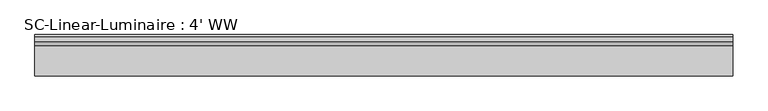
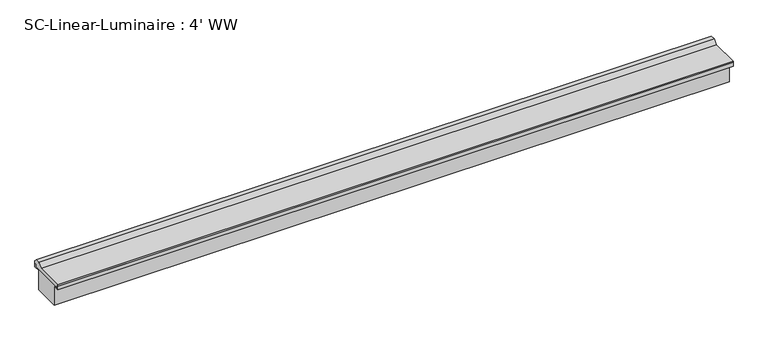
"""IFC4 building model written with IfcOpenShell, lengths in millimetres: light fixture geometry, SC-Linear-Luminaire : 4' WW."""

from ifc_helpers import new_model, si_unit, frame, origin, place, context, project, spatial, polyline, outline, extrude, source, transform, mapped, element, save


def sc_linear_luminaire_4_ww_3d6254a3(model_context):
    return source(origin(), model_context, "Body", "SweptSolid", [
        extrude(outline(polyline([(33.02, 66.5757209), (29.845, 66.5757209), (29.845, 62.6426128), (-29.845, 62.6426128), (-29.845, 66.5757209), (-33.02, 66.5757209), (-33.02, 68.3937716), (15.3532116, 68.3937716), (21.7032116, 74.7437716), (29.3990509, 74.7437716), (33.02, 71.1228225), (33.02, 66.5757209)])), frame((-558.8, 0.0, 0.0), z_axis=(1.0, 0.0, 0.0), x_axis=(0.0, 1.0, 0.0)), (0.0, 0.0, 1.0), 1117.6),
        extrude(outline(polyline([(33.02, 66.5757209), (33.02, 60.325), (22.225, 60.325), (22.225, 26.45), (-22.225, 26.45), (-22.225, 60.325), (-33.02, 60.325), (-33.02, 66.5757209), (-29.845, 66.5757209), (-29.845, 62.6426128), (29.845, 62.6426128), (29.845, 66.5757209), (33.02, 66.5757209)])), frame((-558.8, 0.0, 0.0), z_axis=(1.0, 0.0, 0.0), x_axis=(0.0, 1.0, 0.0)), (0.0, 0.0, 1.0), 1117.6),
    ])


if __name__ == "__main__":
    model = new_model("IFC4")
    model_context = context("Model", 3, world=origin())
    ifc_project = project(units=[si_unit("LENGTHUNIT", "METRE", prefix="MILLI")], contexts=[model_context])
    site = spatial("IfcSite", under=ifc_project)
    building = spatial("IfcBuilding", under=site)
    placement = place(None, origin())
    sc_linear_luminaire_4_ww_shape = sc_linear_luminaire_4_ww_3d6254a3(model_context)
    element("IfcLightFixture", 1, ObjectType="SC-Linear-Luminaire : 4' WW", at=placement, inside=building, context=model_context, shape_type="MappedRepresentation", body=[
        mapped(sc_linear_luminaire_4_ww_shape, transform((0.0, 0.0, 0.0), x_axis=(1.0, 0.0, 0.0), y_axis=(0.0, 1.0, 0.0), z_axis=(0.0, 0.0, 1.0))),
    ])
    save(model, "model.ifc")
